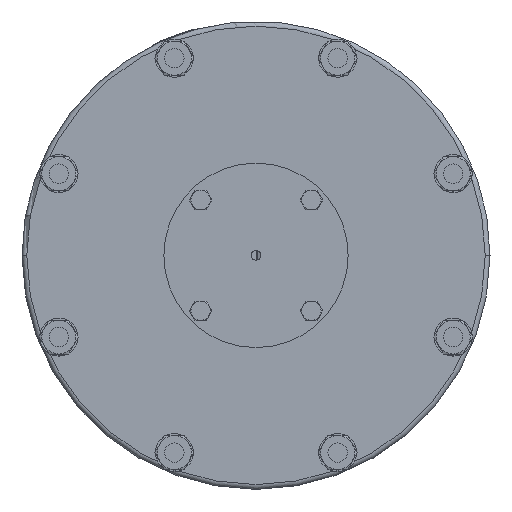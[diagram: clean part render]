
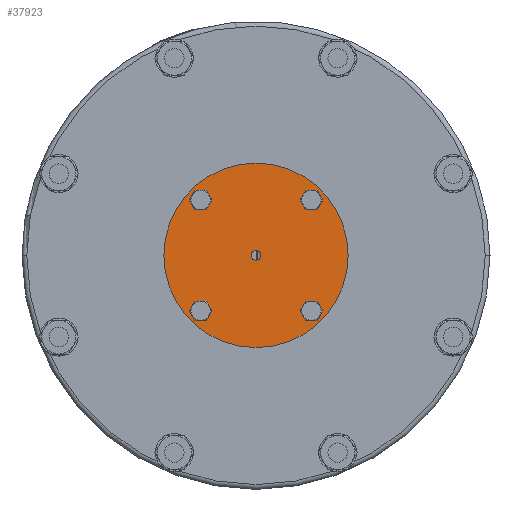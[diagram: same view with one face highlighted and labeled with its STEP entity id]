
A CAD part, front view. The second image highlights one B-rep face of the part: STEP entity #37923.
In plain terms, the highlighted planar face has unit normal (0, -1, 0).
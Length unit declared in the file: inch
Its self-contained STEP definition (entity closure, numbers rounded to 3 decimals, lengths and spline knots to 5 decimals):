
#745 = DIRECTION ( 'NONE',  ( -1., 0., 0. ) ) ;
#1247 = DIRECTION ( 'NONE',  ( 0., -1., 0. ) ) ;
#1280 = VERTEX_POINT ( 'NONE', #50294 ) ;
#2406 = DIRECTION ( 'NONE',  ( 1., 0., 0. ) ) ;
#2443 = VERTEX_POINT ( 'NONE', #13497 ) ;
#3319 = DIRECTION ( 'NONE',  ( -1., 0., 0. ) ) ;
#3822 = VERTEX_POINT ( 'NONE', #6103 ) ;
#4298 = FACE_BOUND ( 'NONE', #27355, .T. ) ;
#5867 = AXIS2_PLACEMENT_3D ( 'NONE', #21633, #25696, #42114 ) ;
#6103 = CARTESIAN_POINT ( 'NONE',  ( -1.565, -4.42575, -0.71344 ) ) ;
#6828 = VERTEX_POINT ( 'NONE', #28432 ) ;
#7395 = DIRECTION ( 'NONE',  ( -1., 0., 0. ) ) ;
#7591 = CARTESIAN_POINT ( 'NONE',  ( -0.2265, -4.42575, 0.71344 ) ) ;
#8134 = ORIENTED_EDGE ( 'NONE', *, *, #52260, .F. ) ;
#9211 = VERTEX_POINT ( 'NONE', #12042 ) ;
#10159 = DIRECTION ( 'NONE',  ( 1., 0., 0. ) ) ;
#10237 = DIRECTION ( 'NONE',  ( 1., 0., 0. ) ) ;
#10844 = VERTEX_POINT ( 'NONE', #46777 ) ;
#11096 = AXIS2_PLACEMENT_3D ( 'NONE', #22286, #1247, #51595 ) ;
#11394 = CARTESIAN_POINT ( 'NONE',  ( -1.6535, -4.42575, 0.71344 ) ) ;
#12042 = CARTESIAN_POINT ( 'NONE',  ( -1.742, -4.42575, -0.71344 ) ) ;
#12292 = FACE_BOUND ( 'NONE', #23203, .T. ) ;
#12818 = AXIS2_PLACEMENT_3D ( 'NONE', #7591, #48917, #31942 ) ;
#13338 = ORIENTED_EDGE ( 'NONE', *, *, #14155, .F. ) ;
#13497 = CARTESIAN_POINT ( 'NONE',  ( -1.0025, -4.42575, 0. ) ) ;
#13586 = ORIENTED_EDGE ( 'NONE', *, *, #25246, .F. ) ;
#13655 = AXIS2_PLACEMENT_3D ( 'NONE', #21996, #37872, #46897 ) ;
#14155 = EDGE_CURVE ( 'NONE', #9211, #3822, #47721, .T. ) ;
#14277 = CARTESIAN_POINT ( 'NONE',  ( -0.2265, -4.42575, -0.71344 ) ) ;
#14347 = CARTESIAN_POINT ( 'NONE',  ( -0.94, -4.42575, 0. ) ) ;
#15164 = DIRECTION ( 'NONE',  ( 1., 0., 0. ) ) ;
#15181 = CARTESIAN_POINT ( 'NONE',  ( -0.138, -4.42575, -0.71344 ) ) ;
#15345 = DIRECTION ( 'NONE',  ( 0., -1., 0. ) ) ;
#15491 = VERTEX_POINT ( 'NONE', #46619 ) ;
#15927 = CARTESIAN_POINT ( 'NONE',  ( 0.2475, -4.42575, 0. ) ) ;
#16646 = FACE_BOUND ( 'NONE', #30729, .T. ) ;
#16898 = FACE_BOUND ( 'NONE', #39741, .T. ) ;
#17025 = ORIENTED_EDGE ( 'NONE', *, *, #24590, .F. ) ;
#17305 = AXIS2_PLACEMENT_3D ( 'NONE', #31407, #47810, #2406 ) ;
#18033 = CIRCLE ( 'NONE', #12818, 0.0885 ) ;
#18061 = VERTEX_POINT ( 'NONE', #23451 ) ;
#18193 = DIRECTION ( 'NONE',  ( 0., -1., 0. ) ) ;
#19334 = AXIS2_PLACEMENT_3D ( 'NONE', #40773, #45673, #3319 ) ;
#19854 = EDGE_CURVE ( 'NONE', #2443, #29356, #42593, .T. ) ;
#19904 = CIRCLE ( 'NONE', #17305, 0.0885 ) ;
#20249 = EDGE_CURVE ( 'NONE', #6828, #21125, #52289, .T. ) ;
#20902 = ORIENTED_EDGE ( 'NONE', *, *, #47635, .F. ) ;
#21051 = CIRCLE ( 'NONE', #19334, 1.1875 ) ;
#21125 = VERTEX_POINT ( 'NONE', #15181 ) ;
#21569 = AXIS2_PLACEMENT_3D ( 'NONE', #35406, #18193, #15164 ) ;
#21633 = CARTESIAN_POINT ( 'NONE',  ( -0.94, -4.42575, 0. ) ) ;
#21996 = CARTESIAN_POINT ( 'NONE',  ( -1.6535, -4.42575, -0.71344 ) ) ;
#22286 = CARTESIAN_POINT ( 'NONE',  ( -1.6535, -4.42575, 0.71344 ) ) ;
#22362 = CIRCLE ( 'NONE', #25885, 0.0885 ) ;
#22910 = VERTEX_POINT ( 'NONE', #47313 ) ;
#22947 = DIRECTION ( 'NONE',  ( -1., 0., 0. ) ) ;
#22969 = ORIENTED_EDGE ( 'NONE', *, *, #19854, .F. ) ;
#23203 = EDGE_LOOP ( 'NONE', ( #20902, #22969 ) ) ;
#23451 = CARTESIAN_POINT ( 'NONE',  ( -1.565, -4.42575, 0.71344 ) ) ;
#23916 = AXIS2_PLACEMENT_3D ( 'NONE', #45597, #42561, #745 ) ;
#24183 = CIRCLE ( 'NONE', #21569, 0.0625 ) ;
#24590 = EDGE_CURVE ( 'NONE', #1280, #22910, #18033, .T. ) ;
#24845 = EDGE_CURVE ( 'NONE', #10844, #18061, #50407, .T. ) ;
#25246 = EDGE_CURVE ( 'NONE', #15491, #52153, #33862, .T. ) ;
#25696 = DIRECTION ( 'NONE',  ( 0., 1., 0. ) ) ;
#25885 = AXIS2_PLACEMENT_3D ( 'NONE', #47593, #15345, #22947 ) ;
#25902 = EDGE_CURVE ( 'NONE', #21125, #6828, #19904, .T. ) ;
#27353 = EDGE_CURVE ( 'NONE', #18061, #10844, #39311, .T. ) ;
#27355 = EDGE_LOOP ( 'NONE', ( #35882, #17025 ) ) ;
#27496 = CIRCLE ( 'NONE', #39716, 0.0885 ) ;
#27775 = EDGE_LOOP ( 'NONE', ( #8134, #13586 ) ) ;
#28432 = CARTESIAN_POINT ( 'NONE',  ( -0.315, -4.42575, -0.71344 ) ) ;
#28675 = AXIS2_PLACEMENT_3D ( 'NONE', #14277, #47626, #10159 ) ;
#28982 = DIRECTION ( 'NONE',  ( 0., -1., 0. ) ) ;
#29122 = EDGE_LOOP ( 'NONE', ( #41669, #13338 ) ) ;
#29356 = VERTEX_POINT ( 'NONE', #36383 ) ;
#30729 = EDGE_LOOP ( 'NONE', ( #35415, #32233 ) ) ;
#31018 = DIRECTION ( 'NONE',  ( 0., -1., 0. ) ) ;
#31407 = CARTESIAN_POINT ( 'NONE',  ( -0.2265, -4.42575, -0.71344 ) ) ;
#31883 = DIRECTION ( 'NONE',  ( 1., 0., 0. ) ) ;
#31942 = DIRECTION ( 'NONE',  ( -1., 0., 0. ) ) ;
#32233 = ORIENTED_EDGE ( 'NONE', *, *, #24845, .F. ) ;
#33270 = AXIS2_PLACEMENT_3D ( 'NONE', #11394, #48034, #31883 ) ;
#33573 = FACE_OUTER_BOUND ( 'NONE', #27775, .T. ) ;
#33862 = CIRCLE ( 'NONE', #5867, 1.1875 ) ;
#33950 = EDGE_CURVE ( 'NONE', #3822, #9211, #22362, .T. ) ;
#35406 = CARTESIAN_POINT ( 'NONE',  ( -0.94, -4.42575, 0. ) ) ;
#35415 = ORIENTED_EDGE ( 'NONE', *, *, #27353, .F. ) ;
#35882 = ORIENTED_EDGE ( 'NONE', *, *, #40335, .F. ) ;
#36383 = CARTESIAN_POINT ( 'NONE',  ( -0.8775, -4.42575, 0. ) ) ;
#37129 = ORIENTED_EDGE ( 'NONE', *, *, #25902, .F. ) ;
#37872 = DIRECTION ( 'NONE',  ( 0., -1., 0. ) ) ;
#37923 = ADVANCED_FACE ( 'NONE', ( #12292, #4298, #16646, #38205, #16898, #33573 ), #46143, .F. ) ;
#38205 = FACE_BOUND ( 'NONE', #29122, .T. ) ;
#39311 = CIRCLE ( 'NONE', #33270, 0.0885 ) ;
#39716 = AXIS2_PLACEMENT_3D ( 'NONE', #49006, #28982, #7395 ) ;
#39741 = EDGE_LOOP ( 'NONE', ( #37129, #50936 ) ) ;
#40335 = EDGE_CURVE ( 'NONE', #22910, #1280, #27496, .T. ) ;
#40773 = CARTESIAN_POINT ( 'NONE',  ( -0.94, -4.42575, 0. ) ) ;
#41669 = ORIENTED_EDGE ( 'NONE', *, *, #33950, .F. ) ;
#42114 = DIRECTION ( 'NONE',  ( -1., 0., 0. ) ) ;
#42561 = DIRECTION ( 'NONE',  ( 0., 1., 0. ) ) ;
#42593 = CIRCLE ( 'NONE', #48745, 0.0625 ) ;
#45597 = CARTESIAN_POINT ( 'NONE',  ( -0.94, -4.42575, 0. ) ) ;
#45673 = DIRECTION ( 'NONE',  ( 0., 1., 0. ) ) ;
#46143 = PLANE ( 'NONE',  #23916 ) ;
#46619 = CARTESIAN_POINT ( 'NONE',  ( -2.1275, -4.42575, 0. ) ) ;
#46777 = CARTESIAN_POINT ( 'NONE',  ( -1.742, -4.42575, 0.71344 ) ) ;
#46897 = DIRECTION ( 'NONE',  ( -1., 0., 0. ) ) ;
#47313 = CARTESIAN_POINT ( 'NONE',  ( -0.138, -4.42575, 0.71344 ) ) ;
#47593 = CARTESIAN_POINT ( 'NONE',  ( -1.6535, -4.42575, -0.71344 ) ) ;
#47626 = DIRECTION ( 'NONE',  ( 0., -1., 0. ) ) ;
#47635 = EDGE_CURVE ( 'NONE', #29356, #2443, #24183, .T. ) ;
#47721 = CIRCLE ( 'NONE', #13655, 0.0885 ) ;
#47810 = DIRECTION ( 'NONE',  ( 0., -1., 0. ) ) ;
#48034 = DIRECTION ( 'NONE',  ( 0., -1., 0. ) ) ;
#48745 = AXIS2_PLACEMENT_3D ( 'NONE', #14347, #31018, #10237 ) ;
#48917 = DIRECTION ( 'NONE',  ( 0., -1., 0. ) ) ;
#49006 = CARTESIAN_POINT ( 'NONE',  ( -0.2265, -4.42575, 0.71344 ) ) ;
#50294 = CARTESIAN_POINT ( 'NONE',  ( -0.315, -4.42575, 0.71344 ) ) ;
#50407 = CIRCLE ( 'NONE', #11096, 0.0885 ) ;
#50936 = ORIENTED_EDGE ( 'NONE', *, *, #20249, .F. ) ;
#51595 = DIRECTION ( 'NONE',  ( 1., 0., 0. ) ) ;
#52153 = VERTEX_POINT ( 'NONE', #15927 ) ;
#52260 = EDGE_CURVE ( 'NONE', #52153, #15491, #21051, .T. ) ;
#52289 = CIRCLE ( 'NONE', #28675, 0.0885 ) ;
